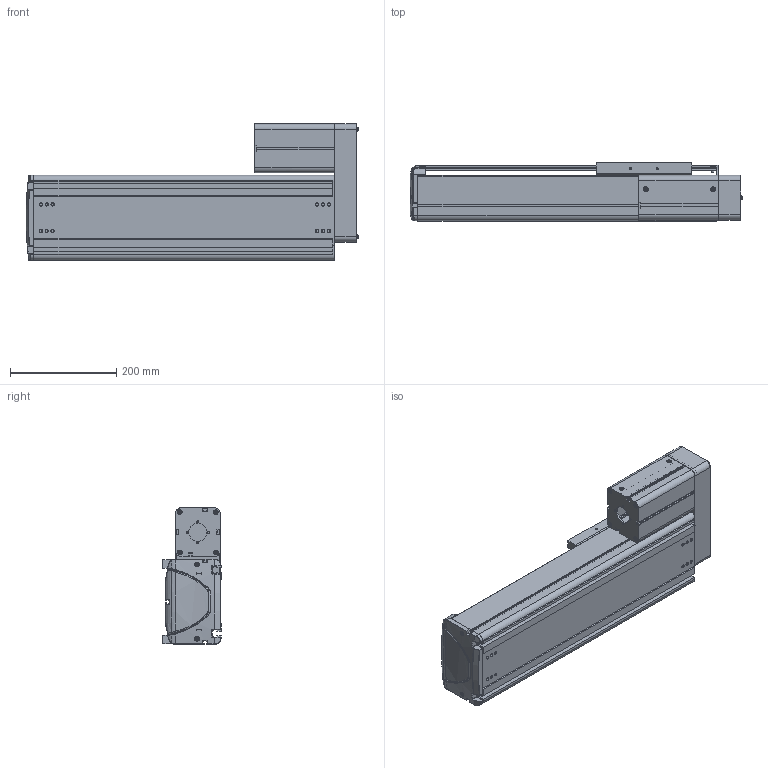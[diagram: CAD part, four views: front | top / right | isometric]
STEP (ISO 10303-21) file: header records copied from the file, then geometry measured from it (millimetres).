
FILE_DESCRIPTION((''),'2;1');
FILE_NAME('BE50F-UR-M_N-30_IGS_PRT','2017-06-18T',(' '),(''),'PRO/ENGINEER BY PARAMETRIC TECHNOLOGY CORPORATION, 2015030','PRO/ENGINEER BY PARAMETRIC TECHNOLOGY CORPORATION, 2015030','');
FILE_SCHEMA(('CONFIG_CONTROL_DESIGN'));
Length unit declared in the file: millimetre
Products named in the file (1): BE50F-UR-M_N-30_IGS_PRT
Bounding box: 625.88 x 110 x 257 mm (x, y, z)
Volume: 3139833.5 mm3; surface area: 1253960.9 mm2
Topology: 4 solids, 112 shells, 2083 faces, 5591 edges, 3642 vertices
Faces by surface type: plane 978, cylinder 855, cone 107, torus 59, bspline 52, sphere 32
Entity records: 68281 total; most frequent: CARTESIAN_POINT 15369, DIRECTION 11156, ORIENTED_EDGE 10704, EDGE_CURVE 5557, AXIS2_PLACEMENT_3D 3956, VERTEX_POINT 3642, VECTOR 3244, LINE 3244
